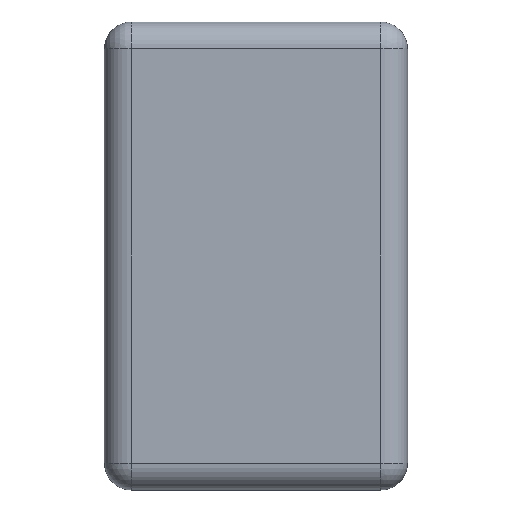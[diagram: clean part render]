
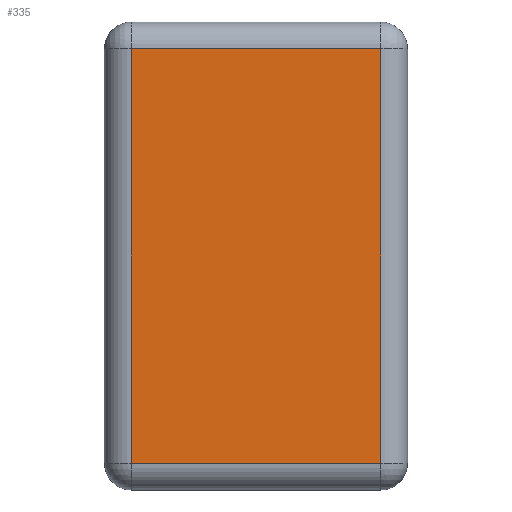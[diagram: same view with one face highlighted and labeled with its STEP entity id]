
A CAD part, front view. The second image highlights one B-rep face of the part: STEP entity #335.
In plain terms, the highlighted planar face has unit normal (0, -1, 0).
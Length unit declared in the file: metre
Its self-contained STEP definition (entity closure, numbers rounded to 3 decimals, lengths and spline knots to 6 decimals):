
#76=ORIENTED_EDGE('',*,*,#172,.T.);
#77=ORIENTED_EDGE('',*,*,#173,.T.);
#78=ORIENTED_EDGE('',*,*,#174,.T.);
#79=ORIENTED_EDGE('',*,*,#175,.T.);
#172=EDGE_CURVE('',#220,#221,#244,.T.);
#173=EDGE_CURVE('',#221,#222,#245,.F.);
#174=EDGE_CURVE('',#222,#223,#246,.F.);
#175=EDGE_CURVE('',#223,#220,#247,.T.);
#220=VERTEX_POINT('',#593);
#221=VERTEX_POINT('',#594);
#222=VERTEX_POINT('',#596);
#223=VERTEX_POINT('',#598);
#244=LINE('',#592,#268);
#245=LINE('',#595,#269);
#246=LINE('',#597,#270);
#247=LINE('',#599,#271);
#268=VECTOR('',#453,1.);
#269=VECTOR('',#454,1.);
#270=VECTOR('',#455,1.);
#271=VECTOR('',#456,1.);
#277=EDGE_LOOP('',(#76,#77,#78,#79));
#303=FACE_BOUND('',#277,.T.);
#329=PLANE('',#374);
#335=ADVANCED_FACE('',(#303),#329,.F.);
#374=AXIS2_PLACEMENT_3D('',#591,#451,#452);
#451=DIRECTION('',(0.,1.,0.));
#452=DIRECTION('',(1.,0.,0.));
#453=DIRECTION('',(-1.,0.,0.));
#454=DIRECTION('',(0.,0.,1.));
#455=DIRECTION('',(-1.,0.,0.));
#456=DIRECTION('',(0.,0.,1.));
#591=CARTESIAN_POINT('',(0.,0.,0.));
#592=CARTESIAN_POINT('',(-0.017272,0.,0.023604));
#593=CARTESIAN_POINT('',(0.014206,0.,0.023604));
#594=CARTESIAN_POINT('',(-0.014206,0.,0.023604));
#595=CARTESIAN_POINT('',(-0.014206,0.,0.));
#596=CARTESIAN_POINT('',(-0.014206,0.,-0.023604));
#597=CARTESIAN_POINT('',(0.,0.,-0.023604));
#598=CARTESIAN_POINT('',(0.014206,0.,-0.023604));
#599=CARTESIAN_POINT('',(0.014206,0.,0.02667));
